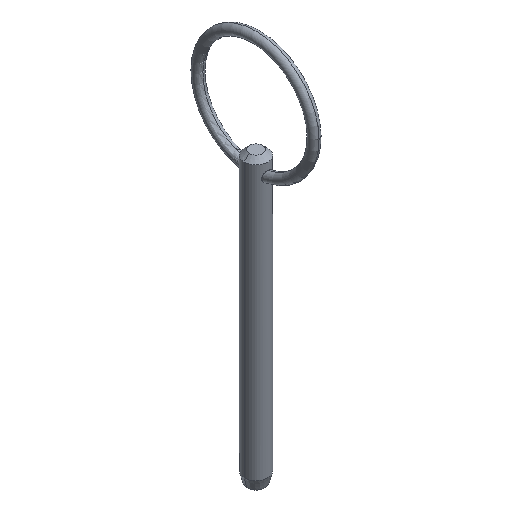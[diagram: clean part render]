
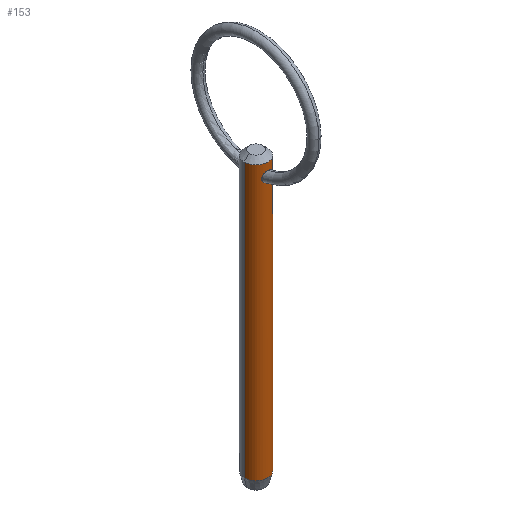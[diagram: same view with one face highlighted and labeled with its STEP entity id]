
A CAD part, isometric view. The second image highlights one B-rep face of the part: STEP entity #153.
In plain terms, the highlighted cylindrical face has radius 2.38 mm (diameter 4.76 mm), a partial arc.
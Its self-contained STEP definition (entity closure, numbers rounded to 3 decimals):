
#10 = EDGE_LOOP ( 'NONE', ( #65, #139 ) ) ;
#17 = CARTESIAN_POINT ( 'NONE',  ( -0.514, -2.327, 48.649 ) ) ;
#22 = CARTESIAN_POINT ( 'NONE',  ( -1.004, -2.158, 49.399 ) ) ;
#25 = B_SPLINE_CURVE_WITH_KNOTS ( 'NONE', 3,
 ( #68, #395, #71, #172, #102, #358, #438, #374, #366, #335, #296, #414, #43, #192, #85, #401, #448, #189 ),
 .UNSPECIFIED., .F., .F.,
 ( 4, 2, 2, 2, 2, 2, 2, 2, 4 ),
 ( 0.003, 0.003, 0.003, 0.004, 0.004, 0.005, 0.005, 0.005, 0.006 ),
 .UNSPECIFIED. ) ;
#29 = AXIS2_PLACEMENT_3D ( 'NONE', #258, #301, #293 ) ;
#32 = DIRECTION ( 'NONE',  ( -1., 0., 0. ) ) ;
#40 = ORIENTED_EDGE ( 'NONE', *, *, #196, .F. ) ;
#43 = CARTESIAN_POINT ( 'NONE',  ( 0.811, -2.24, 48.906 ) ) ;
#45 = DIRECTION ( 'NONE',  ( 0., 0., -1. ) ) ;
#48 = CARTESIAN_POINT ( 'NONE',  ( -0.505, -2.329, 50.426 ) ) ;
#52 = EDGE_CURVE ( 'NONE', #70, #384, #393, .T. ) ;
#65 = ORIENTED_EDGE ( 'NONE', *, *, #112, .T. ) ;
#68 = CARTESIAN_POINT ( 'NONE',  ( 0., -2.38, 50.568 ) ) ;
#70 = VERTEX_POINT ( 'NONE', #361 ) ;
#71 = CARTESIAN_POINT ( 'NONE',  ( 0.268, -2.368, 50.537 ) ) ;
#76 = CARTESIAN_POINT ( 'NONE',  ( 2.38, 0., -3.08 ) ) ;
#85 = CARTESIAN_POINT ( 'NONE',  ( 0.513, -2.327, 48.648 ) ) ;
#99 = CIRCLE ( 'NONE', #29, 2.38 ) ;
#102 = CARTESIAN_POINT ( 'NONE',  ( 0.615, -2.301, 50.344 ) ) ;
#107 = EDGE_CURVE ( 'NONE', #384, #222, #277, .T. ) ;
#108 = VECTOR ( 'NONE', #450, 1000. ) ;
#111 = CARTESIAN_POINT ( 'NONE',  ( -0.134, -2.38, 50.568 ) ) ;
#112 = EDGE_CURVE ( 'NONE', #408, #136, #25, .T. ) ;
#124 = FACE_BOUND ( 'NONE', #10, .T. ) ;
#127 = CARTESIAN_POINT ( 'NONE',  ( -0.268, -2.368, 48.551 ) ) ;
#128 = CARTESIAN_POINT ( 'NONE',  ( 0., -2.38, 50.568 ) ) ;
#136 = VERTEX_POINT ( 'NONE', #406 ) ;
#139 = ORIENTED_EDGE ( 'NONE', *, *, #168, .T. ) ;
#148 = CARTESIAN_POINT ( 'NONE',  ( -0.991, -2.164, 49.801 ) ) ;
#150 = CARTESIAN_POINT ( 'NONE',  ( -0.613, -2.302, 50.346 ) ) ;
#153 = ADVANCED_FACE ( 'NONE', ( #440, #124 ), #170, .T. ) ;
#154 = VERTEX_POINT ( 'NONE', #412 ) ;
#159 = CARTESIAN_POINT ( 'NONE',  ( 2.38, 0., 48.3 ) ) ;
#168 = EDGE_CURVE ( 'NONE', #136, #408, #199, .T. ) ;
#170 = CYLINDRICAL_SURFACE ( 'NONE', #243, 2.38 ) ;
#172 = CARTESIAN_POINT ( 'NONE',  ( 0.508, -2.328, 50.424 ) ) ;
#175 = CARTESIAN_POINT ( 'NONE',  ( 0., 0., -3.08 ) ) ;
#186 = ORIENTED_EDGE ( 'NONE', *, *, #281, .T. ) ;
#189 = CARTESIAN_POINT ( 'NONE',  ( 0., -2.38, 48.525 ) ) ;
#192 = CARTESIAN_POINT ( 'NONE',  ( 0.625, -2.299, 48.721 ) ) ;
#196 = EDGE_CURVE ( 'NONE', #154, #222, #320, .T. ) ;
#197 = CARTESIAN_POINT ( 'NONE',  ( -0.626, -2.298, 48.722 ) ) ;
#199 = B_SPLINE_CURVE_WITH_KNOTS ( 'NONE', 3,
 ( #231, #421, #127, #17, #197, #461, #272, #233, #22, #148, #454, #150, #48, #334, #111, #410 ),
 .UNSPECIFIED., .F., .F.,
 ( 4, 2, 2, 2, 2, 2, 2, 4 ),
 ( 0.006, 0.006, 0.007, 0.007, 0.007, 0.008, 0.009, 0.009 ),
 .UNSPECIFIED. ) ;
#211 = AXIS2_PLACEMENT_3D ( 'NONE', #175, #246, #32 ) ;
#222 = VERTEX_POINT ( 'NONE', #76 ) ;
#231 = CARTESIAN_POINT ( 'NONE',  ( 0., -2.38, 48.525 ) ) ;
#233 = CARTESIAN_POINT ( 'NONE',  ( -0.982, -2.169, 49.265 ) ) ;
#243 = AXIS2_PLACEMENT_3D ( 'NONE', #344, #45, #259 ) ;
#246 = DIRECTION ( 'NONE',  ( 0., 0., 1. ) ) ;
#248 = CARTESIAN_POINT ( 'NONE',  ( -2.38, 0., 48.3 ) ) ;
#258 = CARTESIAN_POINT ( 'NONE',  ( 0., 0., 52.04 ) ) ;
#259 = DIRECTION ( 'NONE',  ( -1., 0., 0. ) ) ;
#272 = CARTESIAN_POINT ( 'NONE',  ( -0.885, -2.21, 49.017 ) ) ;
#277 = CIRCLE ( 'NONE', #211, 2.38 ) ;
#281 = EDGE_CURVE ( 'NONE', #154, #70, #99, .T. ) ;
#290 = VECTOR ( 'NONE', #396, 1000. ) ;
#293 = DIRECTION ( 'NONE',  ( 1., 0., 0. ) ) ;
#296 = CARTESIAN_POINT ( 'NONE',  ( 0.981, -2.169, 49.264 ) ) ;
#301 = DIRECTION ( 'NONE',  ( 0., 0., -1. ) ) ;
#320 = LINE ( 'NONE', #159, #108 ) ;
#334 = CARTESIAN_POINT ( 'NONE',  ( -0.267, -2.368, 50.537 ) ) ;
#335 = CARTESIAN_POINT ( 'NONE',  ( 1.003, -2.158, 49.399 ) ) ;
#344 = CARTESIAN_POINT ( 'NONE',  ( 0., 0., 48.3 ) ) ;
#358 = CARTESIAN_POINT ( 'NONE',  ( 0.793, -2.246, 50.152 ) ) ;
#361 = CARTESIAN_POINT ( 'NONE',  ( -2.38, 0., 52.04 ) ) ;
#366 = CARTESIAN_POINT ( 'NONE',  ( 0.996, -2.162, 49.664 ) ) ;
#374 = CARTESIAN_POINT ( 'NONE',  ( 0.966, -2.176, 49.797 ) ) ;
#384 = VERTEX_POINT ( 'NONE', #458 ) ;
#393 = LINE ( 'NONE', #248, #290 ) ;
#395 = CARTESIAN_POINT ( 'NONE',  ( 0.134, -2.38, 50.568 ) ) ;
#396 = DIRECTION ( 'NONE',  ( 0., 0., -1. ) ) ;
#401 = CARTESIAN_POINT ( 'NONE',  ( 0.268, -2.368, 48.551 ) ) ;
#406 = CARTESIAN_POINT ( 'NONE',  ( 0., -2.38, 48.525 ) ) ;
#408 = VERTEX_POINT ( 'NONE', #128 ) ;
#410 = CARTESIAN_POINT ( 'NONE',  ( 0., -2.38, 50.568 ) ) ;
#412 = CARTESIAN_POINT ( 'NONE',  ( 2.38, 0., 52.04 ) ) ;
#414 = CARTESIAN_POINT ( 'NONE',  ( 0.885, -2.21, 49.017 ) ) ;
#421 = CARTESIAN_POINT ( 'NONE',  ( -0.133, -2.38, 48.525 ) ) ;
#432 = ORIENTED_EDGE ( 'NONE', *, *, #52, .T. ) ;
#437 = ORIENTED_EDGE ( 'NONE', *, *, #107, .T. ) ;
#438 = CARTESIAN_POINT ( 'NONE',  ( 0.865, -2.218, 50.04 ) ) ;
#440 = FACE_OUTER_BOUND ( 'NONE', #456, .T. ) ;
#448 = CARTESIAN_POINT ( 'NONE',  ( 0.133, -2.38, 48.525 ) ) ;
#450 = DIRECTION ( 'NONE',  ( 0., 0., -1. ) ) ;
#454 = CARTESIAN_POINT ( 'NONE',  ( -0.88, -2.219, 50.06 ) ) ;
#456 = EDGE_LOOP ( 'NONE', ( #40, #186, #432, #437 ) ) ;
#458 = CARTESIAN_POINT ( 'NONE',  ( -2.38, 0., -3.08 ) ) ;
#461 = CARTESIAN_POINT ( 'NONE',  ( -0.811, -2.24, 48.906 ) ) ;
